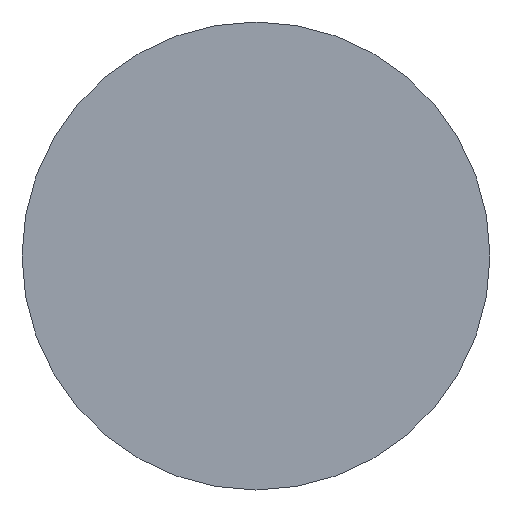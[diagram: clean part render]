
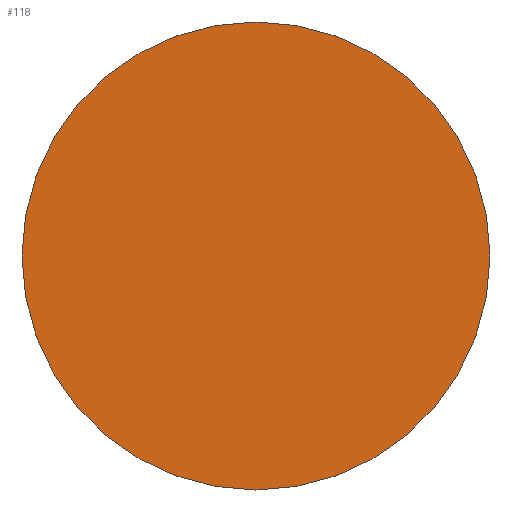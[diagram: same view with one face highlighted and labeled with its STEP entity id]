
A CAD part, left-side view. The second image highlights one B-rep face of the part: STEP entity #118.
In plain terms, the highlighted planar face has unit normal (-1, 0, 0).
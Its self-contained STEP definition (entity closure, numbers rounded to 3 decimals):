
#27 = DIRECTION ( 'NONE',  ( 0., 0., 1. ) ) ;
#28 = DIRECTION ( 'NONE',  ( -1., 0., 0. ) ) ;
#33 = DIRECTION ( 'NONE',  ( 0., 0., 1. ) ) ;
#34 = DIRECTION ( 'NONE',  ( -1., 0., 0. ) ) ;
#35 = CARTESIAN_POINT ( 'NONE',  ( -199.5, 0., 0. ) ) ;
#40 = CARTESIAN_POINT ( 'NONE',  ( -199.5, 0., 0. ) ) ;
#41 = DIRECTION ( 'NONE',  ( 0., 0., 1. ) ) ;
#42 = DIRECTION ( 'NONE',  ( -1., 0., 0. ) ) ;
#43 = PLANE ( 'NONE',  #130 ) ;
#44 = CARTESIAN_POINT ( 'NONE',  ( -199.5, 0., 0. ) ) ;
#62 = VERTEX_POINT ( 'NONE', #65 ) ;
#65 = CARTESIAN_POINT ( 'NONE',  ( -199.5, 0., 5.5 ) ) ;
#67 = VERTEX_POINT ( 'NONE', #68 ) ;
#68 = CARTESIAN_POINT ( 'NONE',  ( -199.5, 0., -5.5 ) ) ;
#71 = EDGE_LOOP ( 'NONE', ( #78, #74 ) ) ;
#74 = ORIENTED_EDGE ( 'NONE', *, *, #136, .T. ) ;
#78 = ORIENTED_EDGE ( 'NONE', *, *, #121, .T. ) ;
#81 = CIRCLE ( 'NONE', #123, 5.5 ) ;
#87 = CIRCLE ( 'NONE', #122, 5.5 ) ;
#99 = FACE_OUTER_BOUND ( 'NONE', #71, .T. ) ;
#118 = ADVANCED_FACE ( 'NONE', ( #99 ), #43, .T. ) ;
#121 = EDGE_CURVE ( 'NONE', #62, #67, #81, .T. ) ;
#122 = AXIS2_PLACEMENT_3D ( 'NONE', #40, #28, #27 ) ;
#123 = AXIS2_PLACEMENT_3D ( 'NONE', #35, #34, #33 ) ;
#130 = AXIS2_PLACEMENT_3D ( 'NONE', #44, #42, #41 ) ;
#136 = EDGE_CURVE ( 'NONE', #67, #62, #87, .T. ) ;
